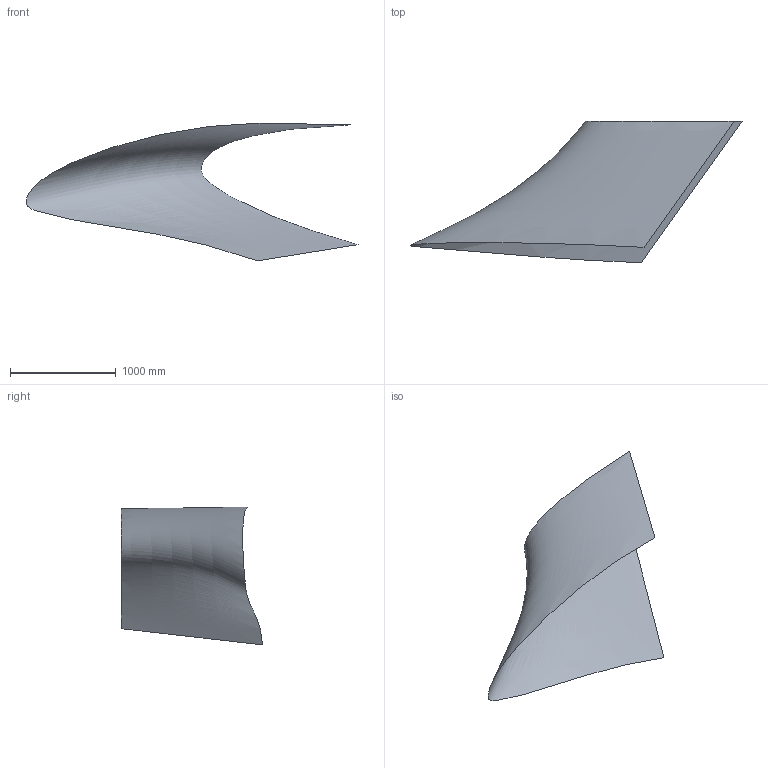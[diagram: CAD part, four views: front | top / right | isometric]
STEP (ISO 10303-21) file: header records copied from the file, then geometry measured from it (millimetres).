
FILE_DESCRIPTION((''),'2;1');
FILE_NAME('','2021-12-13T01:23:00',(''),(''),'','CADfix','');
FILE_SCHEMA(('AUTOMOTIVE_DESIGN { 1 0 10303 214 1 1 1 1 }'));
Bounding box: 3140.07 x 1335.64 x 1302.83 mm (x, y, z)
Surface area: 5063211.5 mm2 (no closed solid volume)
Topology: 0 solids, 0 shells, 1 faces, 4 edges, 4 vertices
Faces by surface type: bspline 1
Entity records: 66086 total; most frequent: CARTESIAN_POINT 66066, DIMENSIONAL_EXPONENTS 2, B_SPLINE_SURFACE_WITH_KNOTS 1, PLANE_ANGLE_MEASURE_WITH_UNIT 1, LENGTH_MEASURE_WITH_UNIT 1, UNCERTAINTY_MEASURE_WITH_UNIT 1, GEOMETRIC_SET 1, GEOMETRICALLY_BOUNDED_SURFACE_SHAPE_REPRESENTATION 1
